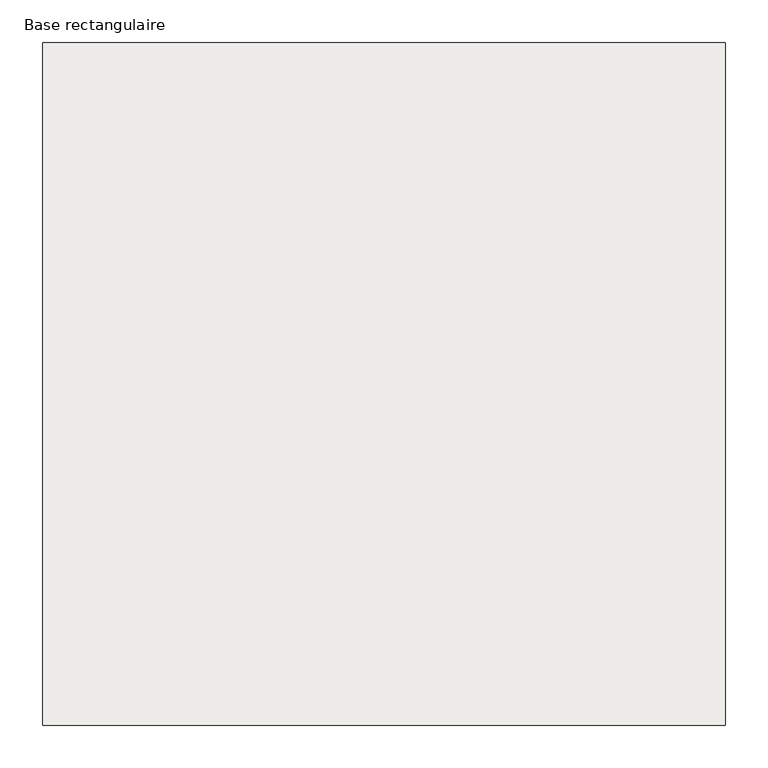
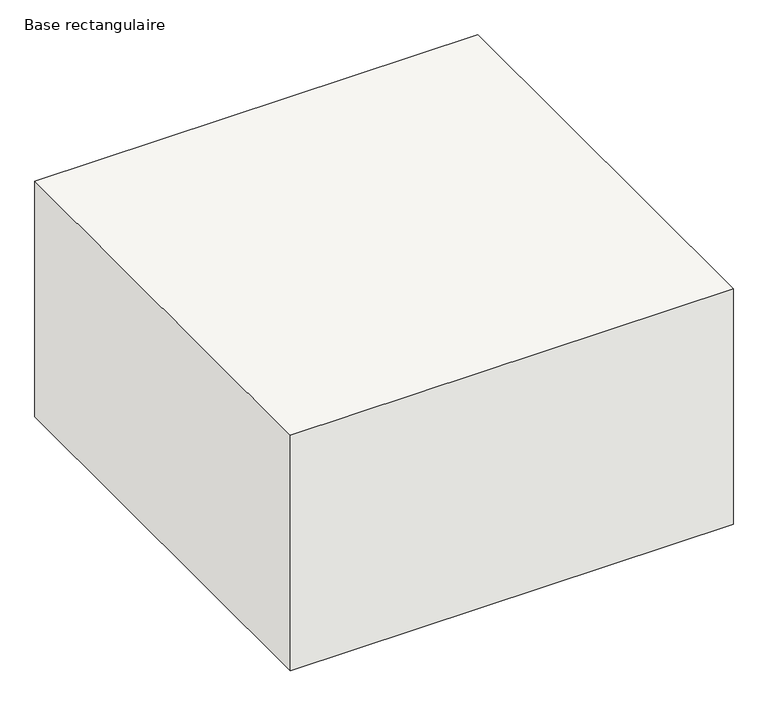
"""IFC4 building model written with IfcOpenShell, lengths in millimetres: slab geometry, Base rectangulaire : 800 mm x 800 mm x 450 mm."""

from ifc_helpers import new_model, si_unit, frame, origin, place, context, project, spatial, polyline, outline, extrude, source, transform, mapped, element, save


def base_rectangulaire_c852994b(model_context):
    return source(origin(), model_context, "Body", "SweptSolid", [
        extrude(outline(polyline([(400.0, 400.0), (400.0, -400.0), (-400.0, -400.0), (-400.0, 400.0), (400.0, 400.0)])), frame((0.0, 0.0, -450.0), z_axis=(0.0, 0.0, 1.0), x_axis=(1.0, 0.0, 0.0)), (0.0, 0.0, 1.0), 450.0),
        extrude(outline(polyline([(400.0, 400.0), (400.0, -400.0), (-400.0, -400.0), (-400.0, 400.0), (400.0, 400.0)])), frame((0.0, 0.0, -450.0), z_axis=(0.0, 0.0, 1.0), x_axis=(1.0, 0.0, 0.0)), (0.0, 0.0, 1.0), 450.0),
    ])


if __name__ == "__main__":
    model = new_model("IFC4")
    model_context = context("Model", 3, world=origin())
    ifc_project = project(units=[si_unit("LENGTHUNIT", "METRE", prefix="MILLI")], contexts=[model_context])
    site = spatial("IfcSite", under=ifc_project)
    building = spatial("IfcBuilding", under=site)
    placement = place(None, origin())
    base_rectangulaire_shape = base_rectangulaire_c852994b(model_context)
    element("IfcSlab", 1, ObjectType="Base rectangulaire : 800 mm x 800 mm x 450 mm", at=placement, inside=building, context=model_context, shape_type="MappedRepresentation", body=[
        mapped(base_rectangulaire_shape, transform((0.0, 0.0, 0.0), x_axis=(1.0, 0.0, 0.0), y_axis=(0.0, 1.0, 0.0), z_axis=(0.0, 0.0, 1.0))),
    ])
    save(model, "model.ifc")
